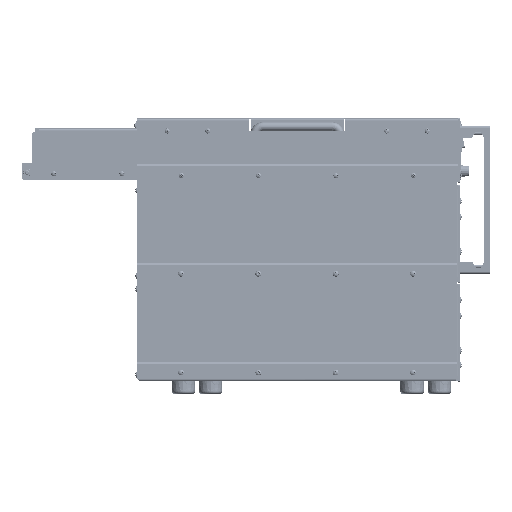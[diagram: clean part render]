
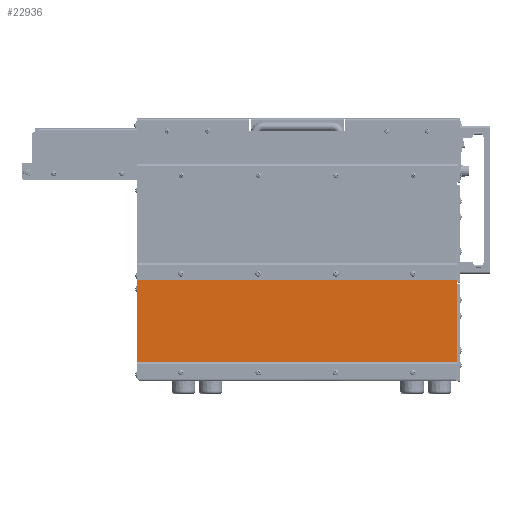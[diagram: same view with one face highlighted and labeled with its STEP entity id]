
A CAD part, left-side view. The second image highlights one B-rep face of the part: STEP entity #22936.
In plain terms, the highlighted planar face has unit normal (-1, 0, 0).
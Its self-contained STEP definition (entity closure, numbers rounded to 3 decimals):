
#22936=ADVANCED_FACE('',(#63011,#63012,#63013,#63014,#63015),#63016,.T.);
#63011=FACE_OUTER_BOUND('',#123773,.T.);
#63012=FACE_BOUND('',#123774,.T.);
#63013=FACE_BOUND('',#123775,.T.);
#63014=FACE_BOUND('',#123776,.T.);
#63015=FACE_BOUND('',#123777,.T.);
#63016=PLANE('',#123778);
#123773=EDGE_LOOP('',(#192511,#192512,#192513,#192514,#192515,#192516,#192517,#192518));
#123774=EDGE_LOOP('',(#192519,#192520));
#123775=EDGE_LOOP('',(#192521,#192522));
#123776=EDGE_LOOP('',(#192523,#192524));
#123777=EDGE_LOOP('',(#192525,#192526));
#123778=AXIS2_PLACEMENT_3D('',#192527,#192528,#192529);
#192511=ORIENTED_EDGE('',*,*,#339090,.F.);
#192512=ORIENTED_EDGE('',*,*,#339098,.T.);
#192513=ORIENTED_EDGE('',*,*,#339109,.F.);
#192514=ORIENTED_EDGE('',*,*,#339085,.F.);
#192515=ORIENTED_EDGE('',*,*,#339133,.T.);
#192516=ORIENTED_EDGE('',*,*,#339151,.F.);
#192517=ORIENTED_EDGE('',*,*,#339152,.F.);
#192518=ORIENTED_EDGE('',*,*,#339092,.F.);
#192519=ORIENTED_EDGE('',*,*,#339068,.T.);
#192520=ORIENTED_EDGE('',*,*,#339135,.T.);
#192521=ORIENTED_EDGE('',*,*,#339063,.T.);
#192522=ORIENTED_EDGE('',*,*,#339137,.T.);
#192523=ORIENTED_EDGE('',*,*,#339058,.T.);
#192524=ORIENTED_EDGE('',*,*,#339139,.T.);
#192525=ORIENTED_EDGE('',*,*,#339053,.T.);
#192526=ORIENTED_EDGE('',*,*,#339141,.T.);
#192527=CARTESIAN_POINT('',(546.234,604.229,-109.302));
#192528=DIRECTION('',(-1.0,0.,0.));
#192529=DIRECTION('',(0.,0.,1.0));
#339053=EDGE_CURVE('',#403437,#403434,#403438,.T.);
#339058=EDGE_CURVE('',#403446,#403443,#403447,.T.);
#339063=EDGE_CURVE('',#403455,#403452,#403456,.T.);
#339068=EDGE_CURVE('',#403464,#403461,#403465,.T.);
#339085=EDGE_CURVE('',#403493,#403489,#403495,.T.);
#339090=EDGE_CURVE('',#403502,#403498,#403504,.T.);
#339092=EDGE_CURVE('',#403498,#403506,#403507,.T.);
#339098=EDGE_CURVE('',#403502,#403514,#403516,.T.);
#339109=EDGE_CURVE('',#403489,#403514,#403529,.T.);
#339133=EDGE_CURVE('',#403493,#403559,#403561,.T.);
#339135=EDGE_CURVE('',#403461,#403464,#403563,.T.);
#339137=EDGE_CURVE('',#403452,#403455,#403565,.T.);
#339139=EDGE_CURVE('',#403443,#403446,#403567,.T.);
#339141=EDGE_CURVE('',#403434,#403437,#403569,.T.);
#339151=EDGE_CURVE('',#403579,#403559,#403580,.T.);
#339152=EDGE_CURVE('',#403506,#403579,#403581,.T.);
#403434=VERTEX_POINT('',#498122);
#403437=VERTEX_POINT('',#498126);
#403438=CIRCLE('',#498127,2.5);
#403443=VERTEX_POINT('',#498133);
#403446=VERTEX_POINT('',#498137);
#403447=CIRCLE('',#498138,2.5);
#403452=VERTEX_POINT('',#498144);
#403455=VERTEX_POINT('',#498148);
#403456=CIRCLE('',#498149,2.5);
#403461=VERTEX_POINT('',#498155);
#403464=VERTEX_POINT('',#498159);
#403465=CIRCLE('',#498160,2.5);
#403489=VERTEX_POINT('',#498189);
#403493=VERTEX_POINT('',#498194);
#403495=CIRCLE('',#498197,1.457);
#403498=VERTEX_POINT('',#498200);
#403502=VERTEX_POINT('',#498205);
#403504=CIRCLE('',#498208,2.538);
#403506=VERTEX_POINT('',#498210);
#403507=CIRCLE('',#498211,2.538);
#403514=VERTEX_POINT('',#498220);
#403516=LINE('',#498223,#498224);
#403529=CIRCLE('',#498240,1.457);
#403559=VERTEX_POINT('',#498279);
#403561=LINE('',#498282,#498283);
#403563=CIRCLE('',#498285,2.5);
#403565=CIRCLE('',#498287,2.5);
#403567=CIRCLE('',#498289,2.5);
#403569=CIRCLE('',#498291,2.5);
#403579=VERTEX_POINT('',#498301);
#403580=LINE('',#498302,#498303);
#403581=LINE('',#498304,#498305);
#498122=CARTESIAN_POINT('',(546.234,974.979,-53.877));
#498126=CARTESIAN_POINT('',(546.234,979.979,-53.877));
#498127=AXIS2_PLACEMENT_3D('',#618377,#618378,#618379);
#498133=CARTESIAN_POINT('',(546.234,870.559,-53.877));
#498137=CARTESIAN_POINT('',(546.234,875.559,-53.877));
#498138=AXIS2_PLACEMENT_3D('',#618385,#618386,#618387);
#498144=CARTESIAN_POINT('',(546.234,766.149,-53.877));
#498148=CARTESIAN_POINT('',(546.234,771.149,-53.877));
#498149=AXIS2_PLACEMENT_3D('',#618393,#618394,#618395);
#498155=CARTESIAN_POINT('',(546.234,661.729,-53.877));
#498159=CARTESIAN_POINT('',(546.234,666.729,-53.877));
#498160=AXIS2_PLACEMENT_3D('',#618401,#618402,#618403);
#498189=CARTESIAN_POINT('',(546.234,1037.053,-46.054));
#498194=CARTESIAN_POINT('',(546.234,1037.479,-47.084));
#498197=AXIS2_PLACEMENT_3D('',#618429,#618430,#618431);
#498200=CARTESIAN_POINT('',(546.234,604.973,-46.371));
#498205=CARTESIAN_POINT('',(546.234,606.767,-45.627));
#498208=AXIS2_PLACEMENT_3D('',#618437,#618438,#618439);
#498210=CARTESIAN_POINT('',(546.234,604.229,-48.165));
#498211=AXIS2_PLACEMENT_3D('',#618440,#618441,#618442);
#498220=CARTESIAN_POINT('',(546.234,1036.023,-45.627));
#498223=CARTESIAN_POINT('',(546.234,604.229,-45.627));
#498224=VECTOR('',#618449,1.0);
#498240=AXIS2_PLACEMENT_3D('',#618468,#618469,#618470);
#498279=CARTESIAN_POINT('',(546.234,1037.479,-172.977));
#498282=CARTESIAN_POINT('',(546.234,1037.479,-45.627));
#498283=VECTOR('',#618505,1.0);
#498285=AXIS2_PLACEMENT_3D('',#618506,#618507,#618508);
#498287=AXIS2_PLACEMENT_3D('',#618509,#618510,#618511);
#498289=AXIS2_PLACEMENT_3D('',#618512,#618513,#618514);
#498291=AXIS2_PLACEMENT_3D('',#618515,#618516,#618517);
#498301=CARTESIAN_POINT('',(546.234,604.229,-172.977));
#498302=CARTESIAN_POINT('',(546.234,604.229,-172.977));
#498303=VECTOR('',#618530,1.0);
#498304=CARTESIAN_POINT('',(546.234,604.229,-45.627));
#498305=VECTOR('',#618531,1.0);
#618377=CARTESIAN_POINT('',(546.234,977.479,-53.877));
#618378=DIRECTION('',(1.0,0.,0.));
#618379=DIRECTION('',(0.,-1.0,0.));
#618385=CARTESIAN_POINT('',(546.234,873.059,-53.877));
#618386=DIRECTION('',(1.0,0.,0.));
#618387=DIRECTION('',(0.,-1.0,0.));
#618393=CARTESIAN_POINT('',(546.234,768.649,-53.877));
#618394=DIRECTION('',(1.0,0.,0.));
#618395=DIRECTION('',(0.,-1.0,0.));
#618401=CARTESIAN_POINT('',(546.234,664.229,-53.877));
#618402=DIRECTION('',(1.0,0.,0.));
#618403=DIRECTION('',(0.,-1.0,0.));
#618429=CARTESIAN_POINT('',(546.234,1036.023,-47.084));
#618430=DIRECTION('',(1.0,0.,0.));
#618431=DIRECTION('',(0.,0.707,0.707));
#618437=CARTESIAN_POINT('',(546.234,606.767,-48.165));
#618438=DIRECTION('',(1.0,0.,0.));
#618439=DIRECTION('',(0.,-0.707,0.707));
#618440=CARTESIAN_POINT('',(546.234,606.767,-48.165));
#618441=DIRECTION('',(1.0,0.,0.));
#618442=DIRECTION('',(0.,-0.707,0.707));
#618449=DIRECTION('',(0.0,1.0,0.0));
#618468=CARTESIAN_POINT('',(546.234,1036.023,-47.084));
#618469=DIRECTION('',(1.0,0.,0.));
#618470=DIRECTION('',(0.,0.707,0.707));
#618505=DIRECTION('',(0.0,0.0,-1.0));
#618506=CARTESIAN_POINT('',(546.234,664.229,-53.877));
#618507=DIRECTION('',(1.0,0.,0.));
#618508=DIRECTION('',(0.,-1.0,0.));
#618509=CARTESIAN_POINT('',(546.234,768.649,-53.877));
#618510=DIRECTION('',(1.0,0.,0.));
#618511=DIRECTION('',(0.,-1.0,0.));
#618512=CARTESIAN_POINT('',(546.234,873.059,-53.877));
#618513=DIRECTION('',(1.0,0.,0.));
#618514=DIRECTION('',(0.,-1.0,0.));
#618515=CARTESIAN_POINT('',(546.234,977.479,-53.877));
#618516=DIRECTION('',(1.0,0.,0.));
#618517=DIRECTION('',(0.,-1.0,0.));
#618530=DIRECTION('',(0.0,1.0,0.0));
#618531=DIRECTION('',(0.0,0.0,-1.0));
